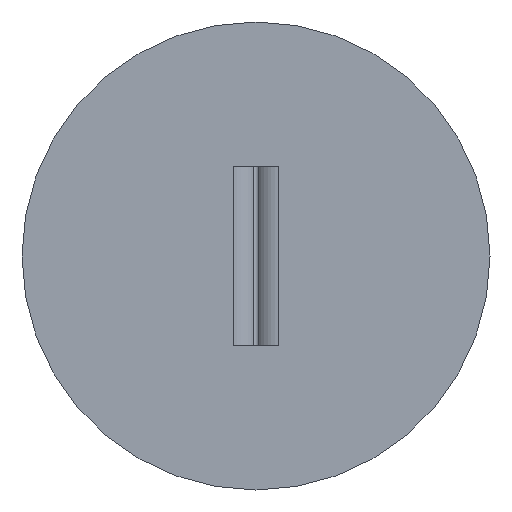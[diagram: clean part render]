
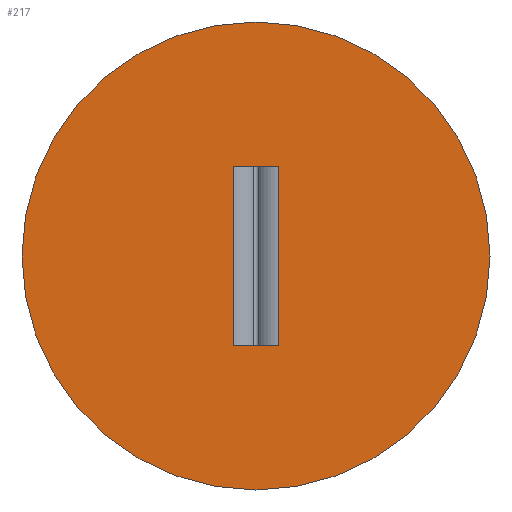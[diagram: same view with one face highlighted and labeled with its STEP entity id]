
A CAD part, front view. The second image highlights one B-rep face of the part: STEP entity #217.
In plain terms, the highlighted planar face has unit normal (0, -1, 0).
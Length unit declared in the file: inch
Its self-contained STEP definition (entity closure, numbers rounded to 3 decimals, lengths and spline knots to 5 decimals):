
#12 = EDGE_CURVE ( 'NONE', #402, #229, #196, .T. ) ;
#31 = EDGE_LOOP ( 'NONE', ( #326, #254 ) ) ;
#36 = LINE ( 'NONE', #224, #337 ) ;
#49 = VERTEX_POINT ( 'NONE', #306 ) ;
#50 = VECTOR ( 'NONE', #303, 39.37008 ) ;
#69 = CARTESIAN_POINT ( 'NONE',  ( -0.06124, -0.059, 0. ) ) ;
#82 = VERTEX_POINT ( 'NONE', #383 ) ;
#93 = DIRECTION ( 'NONE',  ( 1., 0., 0. ) ) ;
#101 = DIRECTION ( 'NONE',  ( 1., 0., 0. ) ) ;
#123 = EDGE_CURVE ( 'NONE', #160, #82, #315, .T. ) ;
#135 = VECTOR ( 'NONE', #325, 39.37008 ) ;
#141 = DIRECTION ( 'NONE',  ( 0., -1., 0. ) ) ;
#160 = VERTEX_POINT ( 'NONE', #162 ) ;
#162 = CARTESIAN_POINT ( 'NONE',  ( 0.625, -0.059, 0.24 ) ) ;
#175 = VECTOR ( 'NONE', #401, 39.37008 ) ;
#190 = CARTESIAN_POINT ( 'NONE',  ( 0.06124, -0.059, 0. ) ) ;
#193 = EDGE_LOOP ( 'NONE', ( #336, #299, #221, #355 ) ) ;
#196 = LINE ( 'NONE', #199, #50 ) ;
#199 = CARTESIAN_POINT ( 'NONE',  ( 0.06124, -0.059, 0. ) ) ;
#205 = DIRECTION ( 'NONE',  ( 0., -1., 0. ) ) ;
#210 = FACE_OUTER_BOUND ( 'NONE', #31, .T. ) ;
#213 = CIRCLE ( 'NONE', #273, 0.625 ) ;
#217 = ADVANCED_FACE ( 'NONE', ( #210, #471 ), #284, .F. ) ;
#221 = ORIENTED_EDGE ( 'NONE', *, *, #348, .T. ) ;
#222 = DIRECTION ( 'NONE',  ( 1., 0., 0. ) ) ;
#224 = CARTESIAN_POINT ( 'NONE',  ( -0.06124, -0.059, 0.48 ) ) ;
#229 = VERTEX_POINT ( 'NONE', #469 ) ;
#240 = CARTESIAN_POINT ( 'NONE',  ( 0., -0.059, 0.24 ) ) ;
#243 = DIRECTION ( 'NONE',  ( 0., 1., 0. ) ) ;
#251 = LINE ( 'NONE', #69, #175 ) ;
#254 = ORIENTED_EDGE ( 'NONE', *, *, #316, .T. ) ;
#257 = CARTESIAN_POINT ( 'NONE',  ( -0.06124, -0.059, 0. ) ) ;
#273 = AXIS2_PLACEMENT_3D ( 'NONE', #430, #141, #101 ) ;
#284 = PLANE ( 'NONE',  #474 ) ;
#299 = ORIENTED_EDGE ( 'NONE', *, *, #354, .T. ) ;
#303 = DIRECTION ( 'NONE',  ( 0., 0., 1. ) ) ;
#306 = CARTESIAN_POINT ( 'NONE',  ( -0.06124, -0.059, 0. ) ) ;
#315 = CIRCLE ( 'NONE', #458, 0.625 ) ;
#316 = EDGE_CURVE ( 'NONE', #82, #160, #213, .T. ) ;
#317 = CARTESIAN_POINT ( 'NONE',  ( -0.625, -0.059, 0.48 ) ) ;
#325 = DIRECTION ( 'NONE',  ( 0., 0., 1. ) ) ;
#326 = ORIENTED_EDGE ( 'NONE', *, *, #123, .T. ) ;
#336 = ORIENTED_EDGE ( 'NONE', *, *, #434, .F. ) ;
#337 = VECTOR ( 'NONE', #222, 39.37008 ) ;
#348 = EDGE_CURVE ( 'NONE', #416, #229, #36, .T. ) ;
#354 = EDGE_CURVE ( 'NONE', #49, #416, #445, .T. ) ;
#355 = ORIENTED_EDGE ( 'NONE', *, *, #12, .F. ) ;
#383 = CARTESIAN_POINT ( 'NONE',  ( -0.625, -0.059, 0.24 ) ) ;
#390 = DIRECTION ( 'NONE',  ( 0., 0., 1. ) ) ;
#401 = DIRECTION ( 'NONE',  ( 1., 0., 0. ) ) ;
#402 = VERTEX_POINT ( 'NONE', #190 ) ;
#416 = VERTEX_POINT ( 'NONE', #437 ) ;
#430 = CARTESIAN_POINT ( 'NONE',  ( 0., -0.059, 0.24 ) ) ;
#434 = EDGE_CURVE ( 'NONE', #49, #402, #251, .T. ) ;
#437 = CARTESIAN_POINT ( 'NONE',  ( -0.06124, -0.059, 0.48 ) ) ;
#445 = LINE ( 'NONE', #257, #135 ) ;
#458 = AXIS2_PLACEMENT_3D ( 'NONE', #240, #205, #93 ) ;
#469 = CARTESIAN_POINT ( 'NONE',  ( 0.06124, -0.059, 0.48 ) ) ;
#471 = FACE_BOUND ( 'NONE', #193, .T. ) ;
#474 = AXIS2_PLACEMENT_3D ( 'NONE', #317, #243, #390 ) ;
